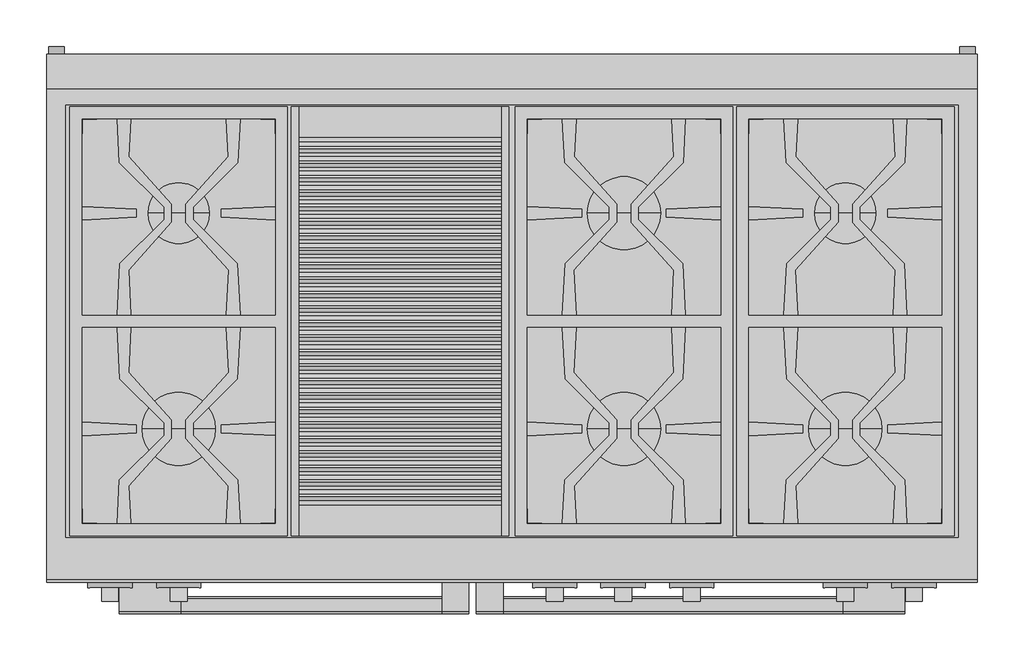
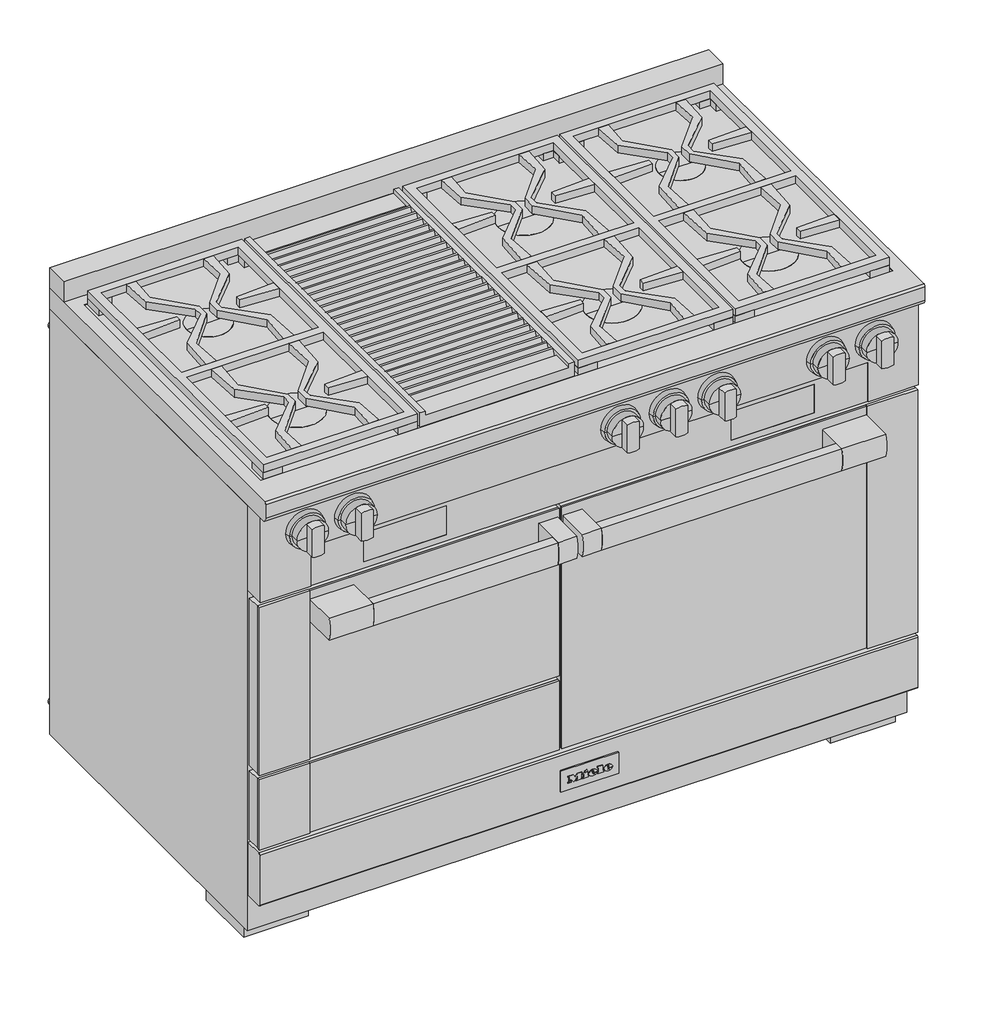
# Not in any storey: 1 proxy.
"""IFC4 building model written with IfcOpenShell, lengths in millimetres."""

from ifc_helpers import new_model, si_unit, origin, place, context, project, spatial, transform, mapped, element, save
from components import specialty_equipment_83a5bb5f, specialty_equipment_22e6063f, specialty_equipment_37804b92

model = new_model("IFC4")

# Units and contexts
model_context = context("Model", 3, world=origin())
ifc_project = project(units=[si_unit("LENGTHUNIT", "METRE", prefix="MILLI")], contexts=[model_context])

# Site, building
site = spatial("IfcSite", under=ifc_project)
building = spatial("IfcBuilding", under=site)

# Proxy
placement = place(None, origin())
specialty_equipment_shape = specialty_equipment_83a5bb5f(model_context)
specialty_equipment_2_shape = specialty_equipment_22e6063f(model_context)
specialty_equipment_3_shape = specialty_equipment_37804b92(model_context)
element("IfcBuildingElementProxy", 1, Name="11791690_USA_HR1955-3G_EDST-CLST : 25195581_USA_11791690_HR1955-3G_EDST-CLST", ObjectType="11791690_USA_HR1955-3G_EDST-CLST : 25195581_USA_11791690_HR1955-3G_EDST-CLST", at=placement, inside=building, context=model_context, shape_type="MappedRepresentation", body=[
    mapped(specialty_equipment_shape, transform((0.0, 0.0, 0.0), x_axis=(1.0, 0.0, 0.0), y_axis=(0.0, 1.0, 0.0), z_axis=(0.0, 0.0, 1.0))),
    mapped(specialty_equipment_2_shape, transform((0.0, 0.0, 0.0), x_axis=(1.0, 0.0, 0.0), y_axis=(0.0, 1.0, 0.0), z_axis=(0.0, 0.0, 1.0))),
    mapped(specialty_equipment_3_shape, transform((0.0, 0.0, 0.0), x_axis=(1.0, 0.0, 0.0), y_axis=(0.0, 1.0, 0.0), z_axis=(0.0, 0.0, 1.0))),
])

save(model, "model.ifc")
